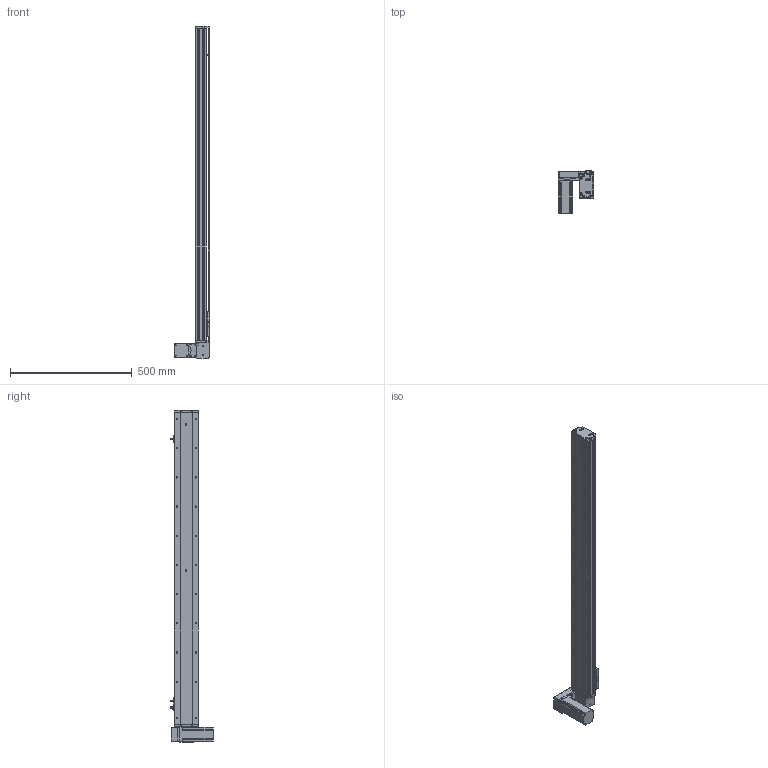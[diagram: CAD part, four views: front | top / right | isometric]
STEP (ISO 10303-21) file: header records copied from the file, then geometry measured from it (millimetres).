
FILE_DESCRIPTION (( 'STEP AP214' ), '1' );
FILE_NAME ('KSD100B-S1100-MLD-CM.STEP', '2019-08-31T07:03:17', ( '微软用户' ), ( '微软中国' ), 'SwSTEP 2.0', 'SolidWorks 2014', '' );
FILE_SCHEMA (( 'AUTOMOTIVE_DESIGN' ));
Length unit declared in the file: millimetre
Products named in the file (12): 悵誘欶奻狟殏; 100宽马达安装板连板上下折丝杆同步带; 台达ECMA－C20604AS伺服电机; U倰嫖萇EEㄜSX672; 覜茼え100遵圉猾敕; 100宽防尘板1100行程-同步带; 100宽马达安装板同步带左; 100宽同步带安装板半封闭; 100宽马达安装板同步带; 100遵傷啣肮祭湍; 100宽底板半封闭同步带1100行程; KSD100B-S1100-MLD-CM
Assembly tree (13 placements, depth 2):
  KSD100B-S1100-MLD-CM
    100宽底板半封闭同步带1100行程
    100遵傷啣肮祭湍
    100宽马达安装板同步带
    100宽同步带安装板半封闭
    100宽马达安装板同步带左
    100宽防尘板1100行程-同步带
    覜茼え100遵圉猾敕
    U倰嫖萇EEㄜSX672  x3
    台达ECMA－C20604AS伺服电机
    100宽马达安装板连板上下折丝杆同步带
    悵誘欶奻狟殏
Bounding box: 148 x 174.7 x 1365 mm (x, y, z)
Volume: 3057581.5 mm3; surface area: 1020969.3 mm2
Topology: 14 solids, 14 shells, 1503 faces, 4234 edges, 2687 vertices
Faces by surface type: cylinder 761, plane 595, cone 147
Entity records: 53727 total; most frequent: CARTESIAN_POINT 10782, DIRECTION 7354, ORIENTED_EDGE 7080, EDGE_CURVE 3540, AXIS2_PLACEMENT_3D 2693, VERTEX_POINT 2311, VECTOR 1968, LINE 1968
